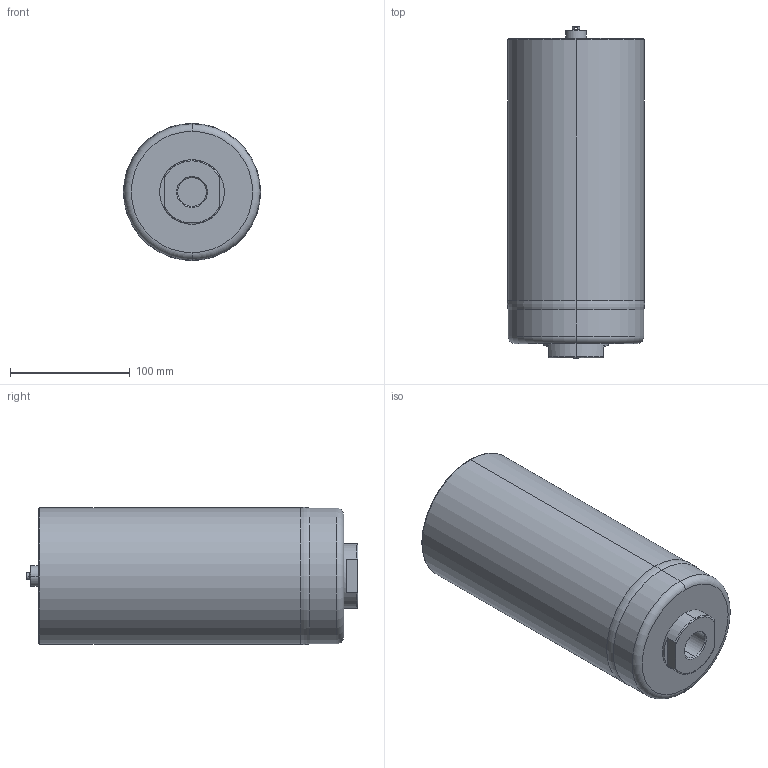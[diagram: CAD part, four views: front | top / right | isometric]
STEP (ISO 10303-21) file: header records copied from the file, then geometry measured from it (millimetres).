
FILE_DESCRIPTION (( 'STEP AP214' ), '1' );
FILE_NAME ('U015A11X1-AI.STEP', '2025-05-28T10:05:08', ( '' ), ( '' ), 'SwSTEP 2.0', 'SolidWorks 2024', '' );
FILE_SCHEMA (( 'AUTOMOTIVE_DESIGN' ));
Length unit declared in the file: millimetre
Products named in the file (1): U015A11X1-AI
Bounding box: 114.71 x 277.53 x 114.71 mm (x, y, z)
Volume: 2511675 mm3; surface area: 133027.6 mm2
Topology: 7 solids, 7 shells, 245 faces, 535 edges, 316 vertices
Faces by surface type: plane 89, cylinder 72, cone 42, torus 39, sphere 3
Entity records: 6900 total; most frequent: CARTESIAN_POINT 1306, DIRECTION 1277, ORIENTED_EDGE 1052, AXIS2_PLACEMENT_3D 527, EDGE_CURVE 526, VERTEX_POINT 316, CIRCLE 281, EDGE_LOOP 280
